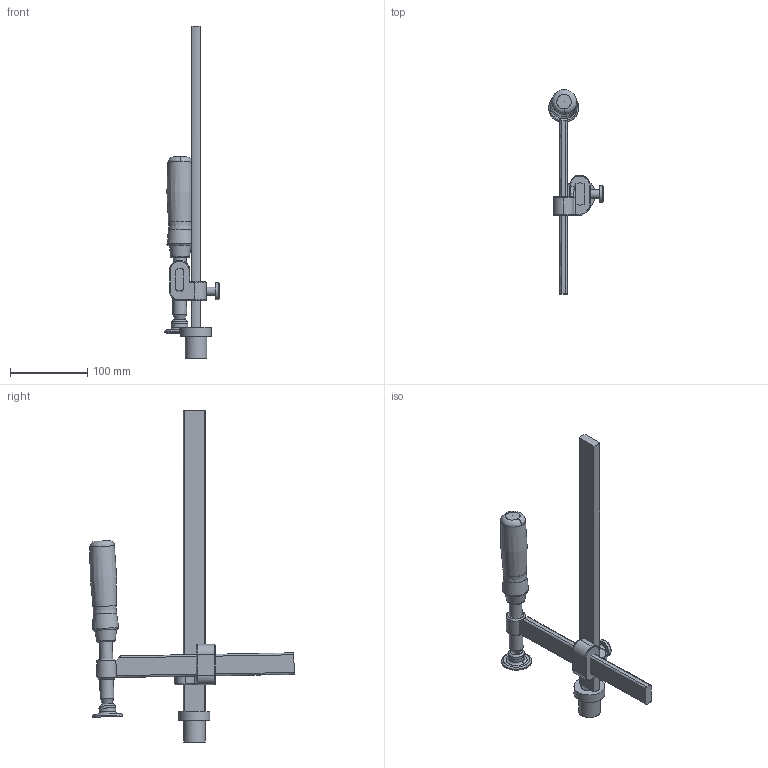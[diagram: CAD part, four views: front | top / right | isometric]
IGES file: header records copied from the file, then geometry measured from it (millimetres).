
Start section: ZWSOFT
Global section: file name: TWV28-30-17-2K.igs; native system: ZW3D; preprocessor: 1.0; author: ZW3D; organization: ZWSOFT; date: 140407.115122; units: millimetre
Bounding box: 70.25 x 264.15 x 429 mm (x, y, z)
Surface area: 93626.1 mm2 (no closed solid volume)
Topology: 0 solids, 0 shells, 125 faces, 561 edges, 500 vertices
Faces by surface type: bspline 125
